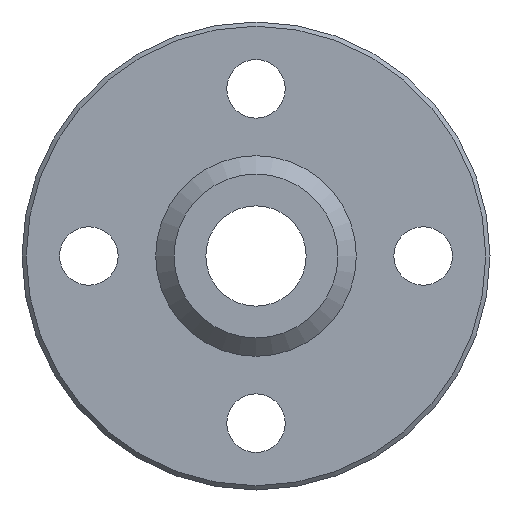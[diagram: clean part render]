
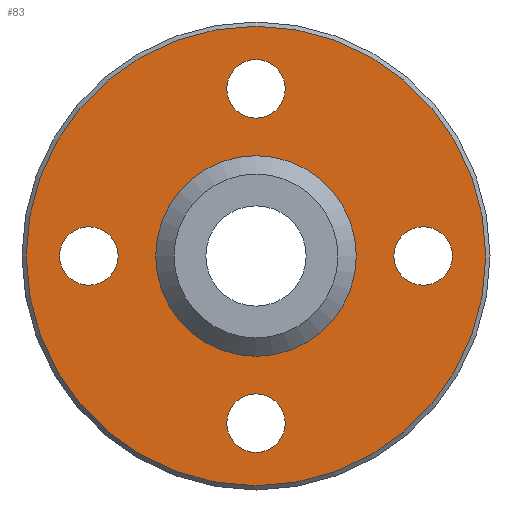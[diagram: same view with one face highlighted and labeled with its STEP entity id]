
A CAD part, left-side view. The second image highlights one B-rep face of the part: STEP entity #83.
In plain terms, the highlighted planar face has unit normal (-1, 0, 0).
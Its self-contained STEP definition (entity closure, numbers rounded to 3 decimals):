
#83=ADVANCED_FACE('',(#125,#126,#127,#128,#129,#130),#131,.F.);
#125=FACE_BOUND('',#196,.T.);
#126=FACE_BOUND('',#197,.T.);
#127=FACE_BOUND('',#198,.T.);
#128=FACE_BOUND('',#199,.T.);
#129=FACE_OUTER_BOUND('',#200,.T.);
#130=FACE_BOUND('',#201,.T.);
#131=PLANE('',#202);
#196=EDGE_LOOP('',(#283));
#197=EDGE_LOOP('',(#284));
#198=EDGE_LOOP('',(#285));
#199=EDGE_LOOP('',(#286));
#200=EDGE_LOOP('',(#287));
#201=EDGE_LOOP('',(#288));
#202=AXIS2_PLACEMENT_3D('',#289,#290,#291);
#283=ORIENTED_EDGE('',*,*,#367,.T.);
#284=ORIENTED_EDGE('',*,*,#368,.T.);
#285=ORIENTED_EDGE('',*,*,#356,.T.);
#286=ORIENTED_EDGE('',*,*,#369,.T.);
#287=ORIENTED_EDGE('',*,*,#366,.F.);
#288=ORIENTED_EDGE('',*,*,#370,.T.);
#289=CARTESIAN_POINT('',(-8.0,6.0,0.0));
#290=DIRECTION('',(1.0,0.0,0.0));
#291=DIRECTION('',(0.0,0.0,-1.0));
#356=EDGE_CURVE('',#385,#385,#386,.T.);
#366=EDGE_CURVE('',#405,#405,#406,.T.);
#367=EDGE_CURVE('',#407,#407,#408,.T.);
#368=EDGE_CURVE('',#409,#409,#410,.T.);
#369=EDGE_CURVE('',#411,#411,#412,.T.);
#370=EDGE_CURVE('',#413,#413,#414,.T.);
#385=VERTEX_POINT('',#435);
#386=CIRCLE('',#436,1.75);
#405=VERTEX_POINT('',#455);
#406=CIRCLE('',#456,13.746);
#407=VERTEX_POINT('',#457);
#408=CIRCLE('',#458,1.75);
#409=VERTEX_POINT('',#459);
#410=CIRCLE('',#460,1.75);
#411=VERTEX_POINT('',#461);
#412=CIRCLE('',#462,1.75);
#413=VERTEX_POINT('',#463);
#414=CIRCLE('',#464,6.0);
#435=CARTESIAN_POINT('',(-8.0,0.0,-11.75));
#436=AXIS2_PLACEMENT_3D('',#489,#490,#491);
#455=CARTESIAN_POINT('',(-8.0,0.0,-13.746));
#456=AXIS2_PLACEMENT_3D('',#519,#520,#521);
#457=CARTESIAN_POINT('',(-8.0,0.0,8.25));
#458=AXIS2_PLACEMENT_3D('',#522,#523,#524);
#459=CARTESIAN_POINT('',(-8.0,10.0,-1.75));
#460=AXIS2_PLACEMENT_3D('',#525,#526,#527);
#461=CARTESIAN_POINT('',(-8.0,-10.0,-1.75));
#462=AXIS2_PLACEMENT_3D('',#528,#529,#530);
#463=CARTESIAN_POINT('',(-8.0,0.0,-6.0));
#464=AXIS2_PLACEMENT_3D('',#531,#532,#533);
#489=CARTESIAN_POINT('',(-8.0,0.0,-10.0));
#490=DIRECTION('',(1.0,0.0,0.0));
#491=DIRECTION('',(0.0,0.0,-1.0));
#519=CARTESIAN_POINT('',(-8.0,0.0,0.0));
#520=DIRECTION('',(1.0,0.0,0.0));
#521=DIRECTION('',(0.0,0.0,-1.0));
#522=CARTESIAN_POINT('',(-8.0,0.0,10.0));
#523=DIRECTION('',(1.0,0.0,0.0));
#524=DIRECTION('',(0.0,0.0,-1.0));
#525=CARTESIAN_POINT('',(-8.0,10.0,0.));
#526=DIRECTION('',(1.0,0.0,0.0));
#527=DIRECTION('',(0.0,0.0,-1.0));
#528=CARTESIAN_POINT('',(-8.0,-10.0,0.0));
#529=DIRECTION('',(1.0,0.0,0.0));
#530=DIRECTION('',(0.0,0.0,-1.0));
#531=CARTESIAN_POINT('',(-8.0,0.0,0.0));
#532=DIRECTION('',(1.0,0.0,0.0));
#533=DIRECTION('',(0.0,0.0,-1.0));
